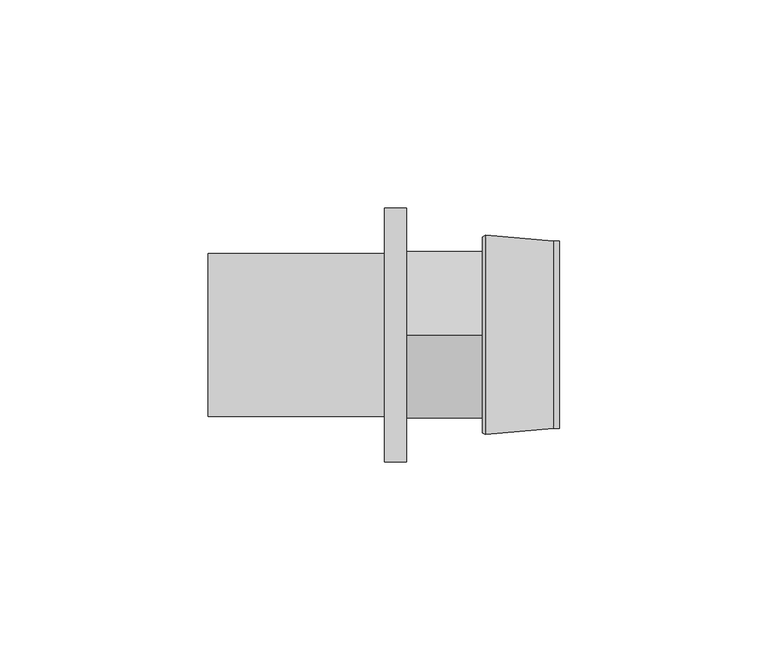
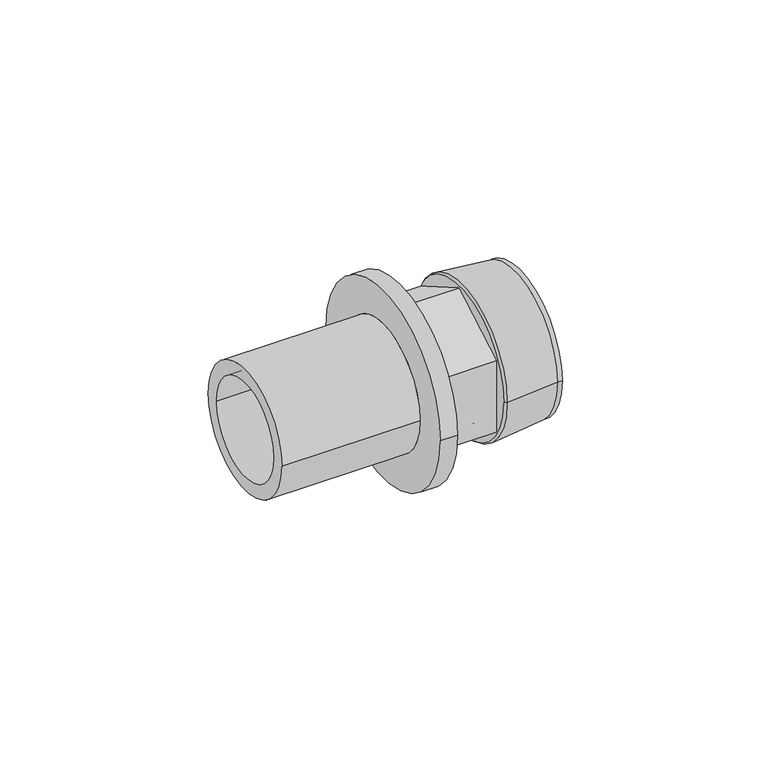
"""IFC4 building model written with IfcOpenShell, lengths in millimetres: pipe fitting geometry, REHAU_RAUTITAN_Adaptor_RX+, with external thread : REHAU_RAUTITAN_Adaptor_RX+, with external thread."""

from ifc_helpers import new_model, si_unit, point, frame, origin, origin_2d, place, context, project, spatial, polyline, circle_curve, trimmed, segment, composite_curve, outline, extrude, source, transform, mapped, element, save
from ifc_brep_helpers import plane_surface, cylinder_surface, revolved_surface, advanced_brep


def pipe_fitting_da2ed738(model_context):
    return source(origin(), model_context, "Body", "SolidModel", [
        advanced_brep(
        [(19.3932803, 18.75, 0.0), (19.3932803, -18.75, 0.0), (36.79, -18.75, 0.0), (36.79, 18.75, 0.0), (18.29, 17.6467197, 0.0), (18.29, -17.6467197, 0.0), (19.0306902, 23.99, 0.0), (19.0306902, -23.99, 0.0), (18.29, -23.54, 0.0), (18.29, 23.54, 0.0), (35.2900007, 22.51, 0.0), (35.2900007, -22.51, 0.0), (36.79, 22.51, 0.0), (36.79, -22.51, 0.0)],
        [
            (0, 1, circle_curve(frame((19.3932803, 0.0, 0.0), z_axis=(-1.0, 0.0, 0.0), x_axis=(0.0, -1.0, 0.0)), 18.75)),
            (1, 2),
            (2, 3, circle_curve(frame((36.79, 0.0, 0.0), z_axis=(1.0, 0.0, 0.0), x_axis=(0.0, -1.0, 0.0)), 18.75)),
            (3, 0),
            (4, 5, circle_curve(frame((18.29, 0.0, 0.0), z_axis=(-1.0, 0.0, 0.0), x_axis=(0.0, -1.0, 0.0)), 17.6467197)),
            (5, 1),
            (0, 4),
            (6, 7, circle_curve(frame((19.0306902, 0.0, 0.0), z_axis=(-1.0, 0.0, 0.0), x_axis=(0.0, -1.0, 0.0)), 23.99)),
            (7, 8),
            (8, 9, circle_curve(frame((18.29, 0.0, 0.0), z_axis=(1.0, 0.0, 0.0), x_axis=(0.0, -1.0, 0.0)), 23.54)),
            (9, 6),
            (10, 11, circle_curve(frame((35.2900007, 0.0, 0.0), z_axis=(-1.0, 0.0, 0.0), x_axis=(0.0, -1.0, 0.0)), 22.51)),
            (11, 7),
            (6, 10),
            (12, 13, circle_curve(frame((36.79, 0.0, 0.0), z_axis=(-1.0, 0.0, 0.0), x_axis=(0.0, -1.0, 0.0)), 22.51)),
            (13, 11),
            (10, 12),
            (1, 0, circle_curve(frame((19.3932803, 0.0, 0.0), z_axis=(-1.0, 0.0, 0.0), x_axis=(0.0, 1.0, 0.0)), 18.75)),
            (3, 2, circle_curve(frame((36.79, 0.0, 0.0), z_axis=(1.0, 0.0, 0.0), x_axis=(0.0, 1.0, 0.0)), 18.75)),
            (5, 4, circle_curve(frame((18.29, 0.0, 0.0), z_axis=(-1.0, 0.0, 0.0), x_axis=(0.0, 1.0, 0.0)), 17.6467197)),
            (8, 9, circle_curve(frame((18.29, 0.0, 0.0), z_axis=(-1.0, 0.0, 0.0), x_axis=(0.0, 1.0, 0.0)), 23.54)),
            (7, 6, circle_curve(frame((19.0306902, 0.0, 0.0), z_axis=(-1.0, 0.0, 0.0), x_axis=(0.0, 1.0, 0.0)), 23.99)),
            (11, 10, circle_curve(frame((35.2900007, 0.0, 0.0), z_axis=(-1.0, 0.0, 0.0), x_axis=(0.0, 1.0, 0.0)), 22.51)),
            (13, 12, circle_curve(frame((36.79, 0.0, 0.0), z_axis=(-1.0, 0.0, 0.0), x_axis=(0.0, 1.0, 0.0)), 22.51)),
        ],
        [
            revolved_surface(polyline([(36.79, -18.75, 0.0), (19.3932803, -18.75, 0.0)]), (0.0, 0.0, 0.0), (1.0, 0.0, 0.0)),
            revolved_surface(polyline([(19.3932803, -18.75, 0.0), (18.29, -17.6467197, 0.0)]), (0.0, 0.0, 0.0), (1.0, 0.0, 0.0)),
            revolved_surface(polyline([(18.29, -23.54, 0.0), (19.0306902, -23.99, 0.0)]), (0.0, 0.0, 0.0), (1.0, 0.0, 0.0)),
            revolved_surface(polyline([(19.0306902, -23.99, 0.0), (35.2900007, -22.51, 0.0)]), (0.0, 0.0, 0.0), (1.0, 0.0, 0.0)),
            cylinder_surface(frame((0.0, 0.0, 0.0), z_axis=(1.0, 0.0, 0.0), x_axis=(0.0, -1.0, 0.0)), 22.51),
            revolved_surface(polyline([(36.79, 18.75, 0.0), (19.3932803, 18.75, 0.0)]), (0.0, 0.0, 0.0), (1.0, 0.0, 0.0)),
            revolved_surface(polyline([(19.3932803, 18.75, 0.0), (18.29, 17.6467197, 0.0)]), (0.0, 0.0, 0.0), (1.0, 0.0, 0.0)),
            plane_surface(frame((18.29, 0.0, 0.0), z_axis=(-1.0, 0.0, 0.0), x_axis=(0.0, 1.0, 0.0))),
            revolved_surface(polyline([(18.29, 23.54, 0.0), (19.0306902, 23.99, 0.0)]), (0.0, 0.0, 0.0), (1.0, 0.0, 0.0)),
            revolved_surface(polyline([(19.0306902, 23.99, 0.0), (35.2900007, 22.51, 0.0)]), (0.0, 0.0, 0.0), (1.0, 0.0, 0.0)),
            cylinder_surface(frame((0.0, 0.0, 0.0), z_axis=(1.0, 0.0, 0.0), x_axis=(0.0, 1.0, 0.0)), 22.51),
            plane_surface(frame((36.79, 0.0, 0.0), z_axis=(1.0, 0.0, 0.0), x_axis=(0.0, 1.0, 0.0))),
        ],
        [
            (0, [[1, 2, 3, 4]]),
            (1, [[5, 6, -1, 7]]),
            (2, [[8, 9, 10, 11]]),
            (3, [[12, 13, -8, 14]]),
            (4, [[15, 16, -12, 17]]),
            (5, [[18, -4, 19, -2]]),
            (6, [[20, -7, -18, -6]]),
            (7, [[21, -10], [-20, -5]]),
            (8, [[22, -11, -21, -9]]),
            (9, [[23, -14, -22, -13]]),
            (10, [[24, -17, -23, -16]]),
            (11, [[-24, -15], [-19, -3]]),
        ],
    ),
        extrude(outline(polyline([(0.0, -23.0940108), (-20.0, -11.5470054), (-20.0, 11.5470054), (0.0, 23.0940108), (20.0, 11.5470054), (20.0, -11.5470054), (0.0, -23.0940108)]), holes=[composite_curve([segment(trimmed(circle_curve(origin_2d(), 15.25), [point((-15.25, 0.0))], [point((15.25, 0.0))], True, "CARTESIAN"), True, "CONTINUOUS"), segment(trimmed(circle_curve(origin_2d(), 15.25), [point((15.25, 0.0))], [point((-15.25, 0.0))], True, "CARTESIAN"), True, "CONTINUOUS")], self_intersect=False)]), frame((0.0, 0.0, 0.0), z_axis=(1.0, 0.0, 0.0), x_axis=(0.0, 1.0, 0.0)), (0.0, 0.0, 1.0), 18.29),
        advanced_brep(
        [(-47.71, 15.25, 0.0), (-47.71, -15.25, 0.0), (0.0, -15.25, 0.0), (0.0, 15.25, 0.0), (-5.25, 19.6, 0.0), (-5.25, -19.6, 0.0), (-47.71, -19.6, 0.0), (-47.71, 19.6, 0.0), (0.0, 30.5, 0.0), (0.0, -30.5, 0.0), (-5.25, -30.5, 0.0), (-5.25, 30.5, 0.0)],
        [
            (0, 1, circle_curve(frame((-47.71, 0.0, 0.0), z_axis=(-1.0, 0.0, 0.0), x_axis=(0.0, -1.0, 0.0)), 15.25)),
            (1, 2),
            (2, 3, circle_curve(frame((0.0, 0.0, 0.0), z_axis=(1.0, 0.0, 0.0), x_axis=(0.0, -1.0, 0.0)), 15.25)),
            (3, 0),
            (4, 5, circle_curve(frame((-5.25, 0.0, 0.0), z_axis=(-1.0, 0.0, 0.0), x_axis=(0.0, -1.0, 0.0)), 19.6)),
            (5, 6),
            (6, 7, circle_curve(frame((-47.71, 0.0, 0.0), z_axis=(1.0, 0.0, 0.0), x_axis=(0.0, -1.0, 0.0)), 19.6)),
            (7, 4),
            (8, 9, circle_curve(frame((0.0, 0.0, 0.0), z_axis=(-1.0, 0.0, 0.0), x_axis=(0.0, -1.0, 0.0)), 30.5)),
            (9, 10),
            (10, 11, circle_curve(frame((-5.25, 0.0, 0.0), z_axis=(1.0, 0.0, 0.0), x_axis=(0.0, -1.0, 0.0)), 30.5)),
            (11, 8),
            (8, 9, circle_curve(frame((0.0, 0.0, 0.0), z_axis=(1.0, 0.0, 0.0), x_axis=(0.0, 1.0, 0.0)), 30.5)),
            (2, 3, circle_curve(frame((0.0, 0.0, 0.0), z_axis=(-1.0, 0.0, 0.0), x_axis=(0.0, 1.0, 0.0)), 15.25)),
            (1, 0, circle_curve(frame((-47.71, 0.0, 0.0), z_axis=(-1.0, 0.0, 0.0), x_axis=(0.0, 1.0, 0.0)), 15.25)),
            (6, 7, circle_curve(frame((-47.71, 0.0, 0.0), z_axis=(-1.0, 0.0, 0.0), x_axis=(0.0, 1.0, 0.0)), 19.6)),
            (5, 4, circle_curve(frame((-5.25, 0.0, 0.0), z_axis=(-1.0, 0.0, 0.0), x_axis=(0.0, 1.0, 0.0)), 19.6)),
            (10, 11, circle_curve(frame((-5.25, 0.0, 0.0), z_axis=(-1.0, 0.0, 0.0), x_axis=(0.0, 1.0, 0.0)), 30.5)),
        ],
        [
            revolved_surface(polyline([(0.0, -15.25, 0.0), (-47.71, -15.25, 0.0)]), (0.0, 0.0, 0.0), (1.0, 0.0, 0.0)),
            cylinder_surface(frame((0.0, 0.0, 0.0), z_axis=(1.0, 0.0, 0.0), x_axis=(0.0, -1.0, 0.0)), 19.6),
            cylinder_surface(frame((0.0, 0.0, 0.0), z_axis=(1.0, 0.0, 0.0), x_axis=(0.0, -1.0, 0.0)), 30.5),
            plane_surface(frame((0.0, 0.0, 0.0), z_axis=(1.0, 0.0, 0.0), x_axis=(0.0, 1.0, 0.0))),
            revolved_surface(polyline([(0.0, 15.25, 0.0), (-47.71, 15.25, 0.0)]), (0.0, 0.0, 0.0), (1.0, 0.0, 0.0)),
            plane_surface(frame((-47.71, 0.0, 0.0), z_axis=(-1.0, 0.0, 0.0), x_axis=(0.0, 1.0, 0.0))),
            cylinder_surface(frame((0.0, 0.0, 0.0), z_axis=(1.0, 0.0, 0.0), x_axis=(0.0, 1.0, 0.0)), 19.6),
            plane_surface(frame((-5.25, 0.0, 0.0), z_axis=(-1.0, 0.0, 0.0), x_axis=(0.0, 1.0, 0.0))),
            cylinder_surface(frame((0.0, 0.0, 0.0), z_axis=(1.0, 0.0, 0.0), x_axis=(0.0, 1.0, 0.0)), 30.5),
        ],
        [
            (0, [[1, 2, 3, 4]]),
            (1, [[5, 6, 7, 8]]),
            (2, [[9, 10, 11, 12]]),
            (3, [[13, -9], [14, -3]]),
            (4, [[15, -4, -14, -2]]),
            (5, [[16, -7], [-15, -1]]),
            (6, [[17, -8, -16, -6]]),
            (7, [[18, -11], [-17, -5]]),
            (8, [[-13, -12, -18, -10]]),
        ],
    ),
    ])


if __name__ == "__main__":
    model = new_model("IFC4")
    model_context = context("Model", 3, world=origin())
    ifc_project = project(units=[si_unit("LENGTHUNIT", "METRE", prefix="MILLI")], contexts=[model_context])
    site = spatial("IfcSite", under=ifc_project)
    building = spatial("IfcBuilding", under=site)
    placement = place(None, origin())
    pipe_fitting_shape = pipe_fitting_da2ed738(model_context)
    element("IfcPipeFitting", 1, ObjectType="REHAU_RAUTITAN_Adaptor_RX+, with external thread : REHAU_RAUTITAN_Adaptor_RX+, with external thread", at=placement, inside=building, context=model_context, shape_type="MappedRepresentation", body=[
        mapped(pipe_fitting_shape, transform((0.0, 0.0, 0.0), x_axis=(1.0, 0.0, 0.0), y_axis=(0.0, 1.0, 0.0), z_axis=(0.0, 0.0, 1.0))),
    ])
    save(model, "model.ifc")
